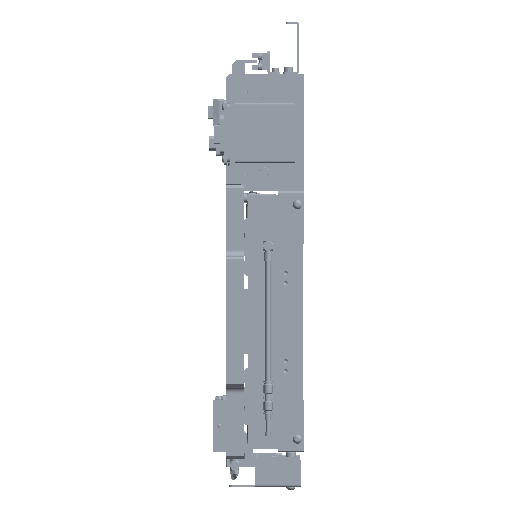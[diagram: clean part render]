
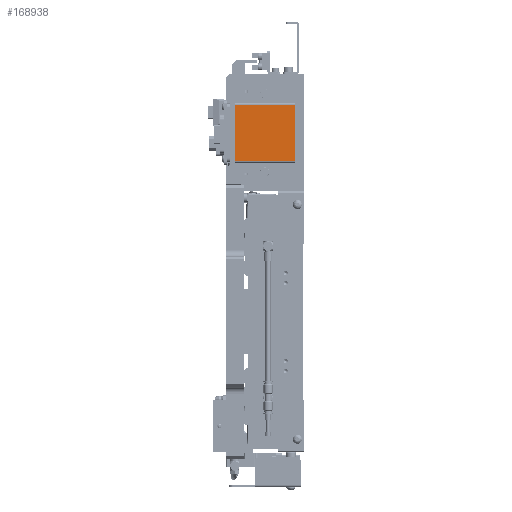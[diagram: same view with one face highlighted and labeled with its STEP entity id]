
A CAD part, front view. The second image highlights one B-rep face of the part: STEP entity #168938.
In plain terms, the highlighted planar face has unit normal (0, -1, 0).
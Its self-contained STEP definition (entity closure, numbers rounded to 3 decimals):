
#19078 = LINE ( 'NONE', #180946, #166022 ) ;
#28832 = EDGE_LOOP ( 'NONE', ( #157494, #259122, #132966, #178779 ) ) ;
#29722 = LINE ( 'NONE', #269956, #158956 ) ;
#31077 = VERTEX_POINT ( 'NONE', #149408 ) ;
#49193 = PLANE ( 'NONE',  #289443 ) ;
#64680 = EDGE_CURVE ( 'NONE', #83079, #175762, #19078, .T. ) ;
#71204 = CARTESIAN_POINT ( 'NONE',  ( -92.365, 325.707, -967.87 ) ) ;
#83079 = VERTEX_POINT ( 'NONE', #101200 ) ;
#92095 = VECTOR ( 'NONE', #341660, 1000. ) ;
#101200 = CARTESIAN_POINT ( 'NONE',  ( -92.365, 325.707, -946.37 ) ) ;
#104463 = CARTESIAN_POINT ( 'NONE',  ( -92.365, 325.707, -989.37 ) ) ;
#106239 = DIRECTION ( 'NONE',  ( 1., 0., 0. ) ) ;
#127578 = DIRECTION ( 'NONE',  ( -1., 0., 0. ) ) ;
#132413 = CARTESIAN_POINT ( 'NONE',  ( -138.365, 325.707, -946.37 ) ) ;
#132966 = ORIENTED_EDGE ( 'NONE', *, *, #159475, .T. ) ;
#134591 = LINE ( 'NONE', #104463, #347614 ) ;
#138173 = DIRECTION ( 'NONE',  ( 0., 0., -1. ) ) ;
#143254 = CARTESIAN_POINT ( 'NONE',  ( -92.365, 325.707, -967.87 ) ) ;
#149408 = CARTESIAN_POINT ( 'NONE',  ( -138.365, 325.707, -989.37 ) ) ;
#157494 = ORIENTED_EDGE ( 'NONE', *, *, #264095, .T. ) ;
#158956 = VECTOR ( 'NONE', #138173, 1000. ) ;
#159475 = EDGE_CURVE ( 'NONE', #175762, #31077, #29722, .T. ) ;
#166022 = VECTOR ( 'NONE', #127578, 1000. ) ;
#168938 = ADVANCED_FACE ( 'NONE', ( #191331 ), #49193, .T. ) ;
#175762 = VERTEX_POINT ( 'NONE', #132413 ) ;
#178779 = ORIENTED_EDGE ( 'NONE', *, *, #337691, .T. ) ;
#180946 = CARTESIAN_POINT ( 'NONE',  ( -92.365, 325.707, -946.37 ) ) ;
#191331 = FACE_OUTER_BOUND ( 'NONE', #28832, .T. ) ;
#195958 = VERTEX_POINT ( 'NONE', #326728 ) ;
#221568 = DIRECTION ( 'NONE',  ( 1., 0., 0. ) ) ;
#226895 = DIRECTION ( 'NONE',  ( 0., -1., 0. ) ) ;
#229765 = LINE ( 'NONE', #71204, #92095 ) ;
#259122 = ORIENTED_EDGE ( 'NONE', *, *, #64680, .T. ) ;
#264095 = EDGE_CURVE ( 'NONE', #195958, #83079, #229765, .T. ) ;
#269956 = CARTESIAN_POINT ( 'NONE',  ( -138.365, 325.707, -967.87 ) ) ;
#289443 = AXIS2_PLACEMENT_3D ( 'NONE', #143254, #226895, #221568 ) ;
#326728 = CARTESIAN_POINT ( 'NONE',  ( -92.365, 325.707, -989.37 ) ) ;
#337691 = EDGE_CURVE ( 'NONE', #31077, #195958, #134591, .T. ) ;
#341660 = DIRECTION ( 'NONE',  ( 0., 0., 1. ) ) ;
#347614 = VECTOR ( 'NONE', #106239, 1000. ) ;
